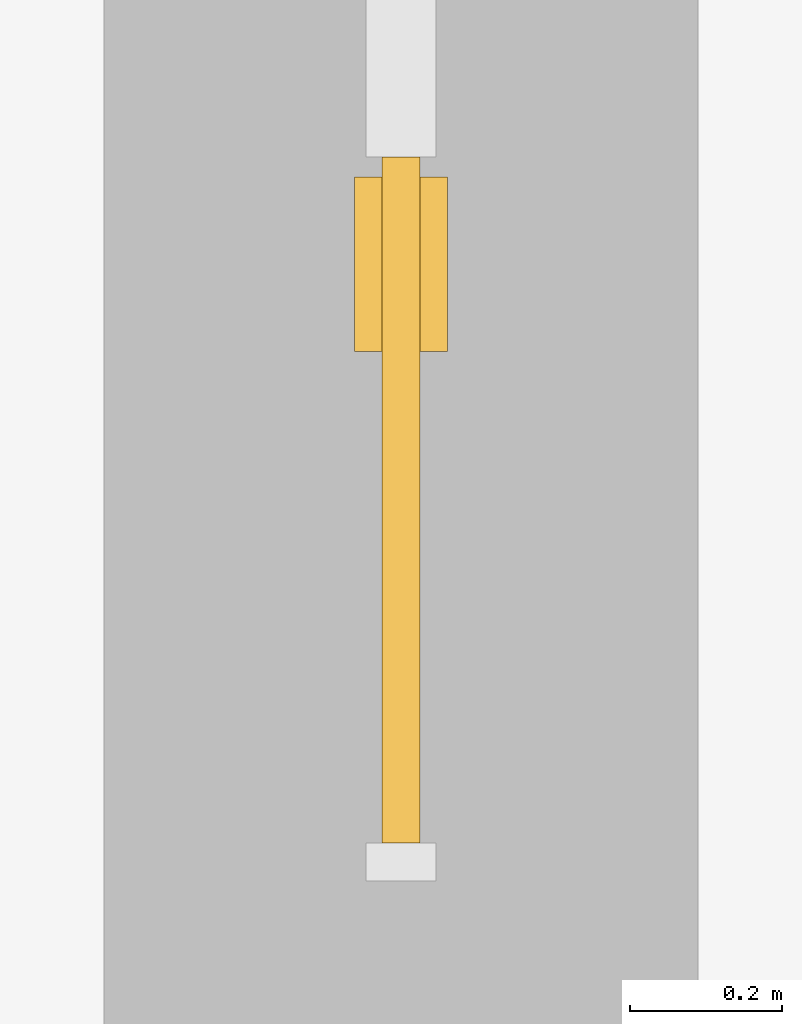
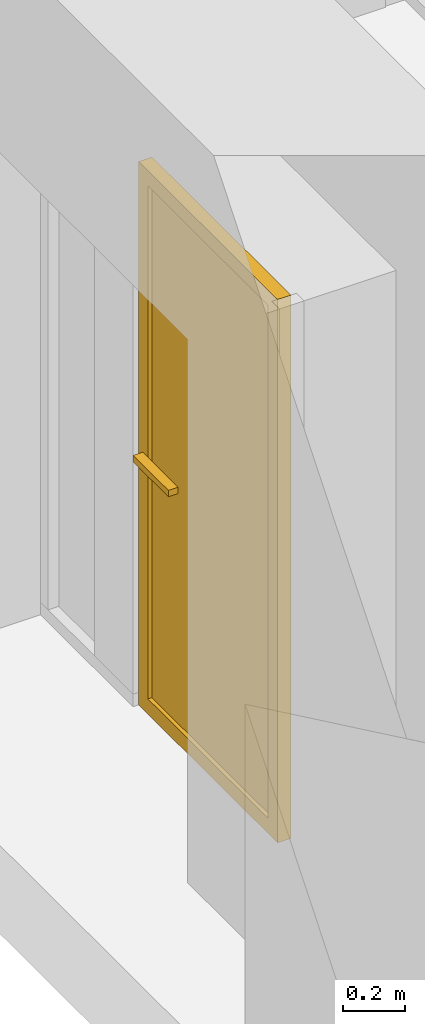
# One storey, part 82 of 88: 1 door, 1 element without a shape of its own.
"""IFC2X3 building model written with IfcOpenShell, lengths in millimetres."""

from ifc_helpers import new_model, entity, si_unit, converted_unit, derived_unit, direction, frame, frame_2d, origin, origin_2d_with_axis, place, context, subcontext, project, spatial, polyline, rectangle, outline, extrude, source, transform, mapped, material, material_list, type_object, type_shapes, element, aggregate, save


model = new_model("IFC2X3")

# Units and contexts
model_context = context("Model", 3, precision=0.01, world=origin(), true_north=direction((6.123031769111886e-17, 1.0)))
body_context = subcontext(model_context, "Body", "Model", "MODEL_VIEW")
ifc_project = project(units=[si_unit("LENGTHUNIT", "METRE", prefix="MILLI"), si_unit("AREAUNIT", "SQUARE_METRE"), si_unit("VOLUMEUNIT", "CUBIC_METRE"), converted_unit("PLANEANGLEUNIT", "DEGREE", entity("IfcPlaneAngleMeasure", 0.017453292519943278), si_unit("PLANEANGLEUNIT", "RADIAN"), dimensions=[0, 0, 0, 0, 0, 0, 0]), si_unit("MASSUNIT", "GRAM", prefix="KILO"), derived_unit("MASSDENSITYUNIT", [(si_unit("MASSUNIT", "GRAM", prefix="KILO"), 1), (si_unit("LENGTHUNIT", "METRE"), -3)]), derived_unit("IONCONCENTRATIONUNIT", [(si_unit("MASSUNIT", "GRAM", prefix="KILO"), 1), (si_unit("LENGTHUNIT", "METRE"), -3)]), derived_unit("MOMENTOFINERTIAUNIT", [(si_unit("LENGTHUNIT", "METRE"), 4)]), si_unit("TIMEUNIT", "SECOND"), si_unit("FREQUENCYUNIT", "HERTZ"), si_unit("THERMODYNAMICTEMPERATUREUNIT", "DEGREE_CELSIUS"), derived_unit("THERMALTRANSMITTANCEUNIT", [(si_unit("MASSUNIT", "GRAM", prefix="KILO"), 1), (si_unit("THERMODYNAMICTEMPERATUREUNIT", "KELVIN"), -1), (si_unit("TIMEUNIT", "SECOND"), -3)]), derived_unit("THERMALCONDUCTANCEUNIT", [(si_unit("MASSUNIT", "GRAM", prefix="KILO"), 1), (si_unit("THERMODYNAMICTEMPERATUREUNIT", "KELVIN"), -1), (si_unit("TIMEUNIT", "SECOND"), -3), (si_unit("LENGTHUNIT", "METRE"), 1)]), derived_unit("VOLUMETRICFLOWRATEUNIT", [(si_unit("LENGTHUNIT", "METRE", prefix="DECI"), 3), (si_unit("TIMEUNIT", "SECOND"), -1)]), derived_unit("MASSFLOWRATEUNIT", [(si_unit("MASSUNIT", "GRAM", prefix="KILO"), 1), (si_unit("TIMEUNIT", "SECOND"), -1)]), derived_unit("ROTATIONALFREQUENCYUNIT", [(si_unit("TIMEUNIT", "SECOND"), -1)]), si_unit("ELECTRICCURRENTUNIT", "AMPERE"), si_unit("ELECTRICVOLTAGEUNIT", "VOLT"), si_unit("POWERUNIT", "WATT"), si_unit("FORCEUNIT", "NEWTON", prefix="KILO"), si_unit("ILLUMINANCEUNIT", "LUX"), si_unit("LUMINOUSFLUXUNIT", "LUMEN"), si_unit("LUMINOUSINTENSITYUNIT", "CANDELA"), si_unit("ENERGYUNIT", "JOULE"), derived_unit("USERDEFINED", [(si_unit("MASSUNIT", "GRAM", prefix="KILO"), -1), (si_unit("LENGTHUNIT", "METRE"), -2), (si_unit("TIMEUNIT", "SECOND"), 3), (si_unit("LUMINOUSFLUXUNIT", "LUMEN"), 1)]), derived_unit("USERDEFINED", [(si_unit("MASSUNIT", "GRAM", prefix="KILO"), 1), (si_unit("TIMEUNIT", "SECOND"), -3), (si_unit("LENGTHUNIT", "METRE"), 3), (si_unit("ELECTRICCURRENTUNIT", "AMPERE"), -2)]), derived_unit("SOUNDPOWERUNIT", [(si_unit("MASSUNIT", "GRAM", prefix="KILO"), 1), (si_unit("TIMEUNIT", "SECOND"), -3), (si_unit("LENGTHUNIT", "METRE"), 2)]), derived_unit("SOUNDPRESSUREUNIT", [(si_unit("MASSUNIT", "GRAM", prefix="KILO"), 1), (si_unit("LENGTHUNIT", "METRE"), -1), (si_unit("TIMEUNIT", "SECOND"), -2)]), derived_unit("LINEARVELOCITYUNIT", [(si_unit("LENGTHUNIT", "METRE"), 1), (si_unit("TIMEUNIT", "SECOND"), -1)]), si_unit("PRESSUREUNIT", "PASCAL"), derived_unit("USERDEFINED", [(si_unit("MASSUNIT", "GRAM", prefix="KILO"), 1), (si_unit("LENGTHUNIT", "METRE"), -2), (si_unit("TIMEUNIT", "SECOND"), -2)]), derived_unit("LINEARFORCEUNIT", [(si_unit("MASSUNIT", "GRAM", prefix="KILO"), 1), (si_unit("TIMEUNIT", "SECOND"), -2)]), derived_unit("PLANARFORCEUNIT", [(si_unit("MASSUNIT", "GRAM", prefix="KILO"), 1), (si_unit("LENGTHUNIT", "METRE"), -1), (si_unit("TIMEUNIT", "SECOND"), -2)]), derived_unit("SPECIFICHEATCAPACITYUNIT", [(si_unit("THERMODYNAMICTEMPERATUREUNIT", "KELVIN"), -1), (si_unit("LENGTHUNIT", "METRE"), 2), (si_unit("TIMEUNIT", "SECOND"), -2)]), derived_unit("HEATFLUXDENSITYUNIT", [(si_unit("MASSUNIT", "GRAM", prefix="KILO"), 1), (si_unit("TIMEUNIT", "SECOND"), -3)]), derived_unit("HEATINGVALUEUNIT", [(si_unit("LENGTHUNIT", "METRE"), 2), (si_unit("TIMEUNIT", "SECOND"), -2)]), derived_unit("VAPORPERMEABILITYUNIT", [(si_unit("LENGTHUNIT", "METRE"), -1), (si_unit("TIMEUNIT", "SECOND"), 1)]), derived_unit("DYNAMICVISCOSITYUNIT", [(si_unit("MASSUNIT", "GRAM", prefix="KILO"), 1), (si_unit("TIMEUNIT", "SECOND"), -1), (si_unit("LENGTHUNIT", "METRE"), -1)]), derived_unit("THERMALEXPANSIONCOEFFICIENTUNIT", [(si_unit("THERMODYNAMICTEMPERATUREUNIT", "KELVIN"), -1)]), derived_unit("MODULUSOFELASTICITYUNIT", [(si_unit("MASSUNIT", "GRAM", prefix="KILO"), 1), (si_unit("LENGTHUNIT", "METRE"), -1), (si_unit("TIMEUNIT", "SECOND"), -2)]), derived_unit("ISOTHERMALMOISTURECAPACITYUNIT", [(si_unit("MASSUNIT", "GRAM", prefix="KILO"), -1), (si_unit("LENGTHUNIT", "METRE"), 3)]), derived_unit("MOISTUREDIFFUSIVITYUNIT", [(si_unit("TIMEUNIT", "SECOND"), -1), (si_unit("LENGTHUNIT", "METRE"), 2)]), derived_unit("MASSPERLENGTHUNIT", [(si_unit("MASSUNIT", "GRAM", prefix="KILO"), 1), (si_unit("LENGTHUNIT", "METRE"), -1)]), derived_unit("THERMALRESISTANCEUNIT", [(si_unit("MASSUNIT", "GRAM", prefix="KILO"), -1), (si_unit("TIMEUNIT", "SECOND"), 3), (si_unit("THERMODYNAMICTEMPERATUREUNIT", "KELVIN"), 1)]), derived_unit("ACCELERATIONUNIT", [(si_unit("LENGTHUNIT", "METRE"), 1), (si_unit("TIMEUNIT", "SECOND"), -2)]), derived_unit("ANGULARVELOCITYUNIT", [(si_unit("TIMEUNIT", "SECOND"), -1), (si_unit("PLANEANGLEUNIT", "RADIAN"), 1)]), derived_unit("LINEARSTIFFNESSUNIT", [(si_unit("MASSUNIT", "GRAM", prefix="KILO"), 1), (si_unit("TIMEUNIT", "SECOND"), -2)]), derived_unit("WARPINGCONSTANTUNIT", [(si_unit("LENGTHUNIT", "METRE"), 6)]), derived_unit("LINEARMOMENTUNIT", [(si_unit("MASSUNIT", "GRAM", prefix="KILO"), 1), (si_unit("LENGTHUNIT", "METRE"), 1), (si_unit("TIMEUNIT", "SECOND"), -2)]), derived_unit("TORQUEUNIT", [(si_unit("MASSUNIT", "GRAM", prefix="KILO"), 1), (si_unit("LENGTHUNIT", "METRE"), 2), (si_unit("TIMEUNIT", "SECOND"), -2)])], contexts=[model_context])

# Site, building, storey
site_placement = place(None, origin())
site = spatial("IfcSite", under=ifc_project, at=site_placement, Name="Default", CompositionType="ELEMENT")
building_placement = place(site_placement, origin())
building = spatial("IfcBuilding", under=site, at=building_placement, Name="Eesti Rahvusraamatukogu hoone renoveerimise projekteerimistööd", CompositionType="ELEMENT")
storey_placement = place(building_placement, origin())
storey = spatial("IfcBuildingStorey", under=building, at=storey_placement, Name="1. korrus", CompositionType="ELEMENT", Elevation=0.0)

# Curtain wall, door
curtain_wall_type = type_object("IfcCurtainWallType", Name="Curtain Wall:VLS Klaasvahesein profiilita 38db", PredefinedType="NOTDEFINED")
curtain_wall_placement = place(storey_placement, origin())
curtain_wall = element("IfcCurtainWall", 1, at=curtain_wall_placement, inside=storey, type_object=curtain_wall_type, Name="Curtain Wall:VLS Klaasvahesein profiilita 38db", ObjectType="Curtain Wall:VLS Klaasvahesein profiilita 38db")
ifc_material_1 = material(Name="Aluminum")
ifc_material_2 = material(Name="Glass")
ifc_material_3 = material(Name="<Unnamed>")
ifc_material_list = material_list([ifc_material_1, ifc_material_2, ifc_material_3])
door_style = type_object("IfcDoorStyle", Name="Metallprofiiluks klaasseinaosana:uus metallprofiiluks - 900x2300", ConstructionType="NOTDEFINED", OperationType="SINGLE_SWING_RIGHT", ParameterTakesPrecedence=False, Sizeable=False, material=ifc_material_list)
shared_shape = source(origin(), body_context, "Body", "SweptSolid", [
    extrude(rectangle(XDim=35.79999999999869, YDim=228.62310005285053, at=frame_2d((3.552713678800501e-15, 2.1316282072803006e-14), x_axis=(1.0, 0.0))), frame((-309.48844997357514, 42.90000000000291, 990.5999999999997), z_axis=(0.0, 0.0, 1.0), x_axis=(0.0, -1.0, 0.0)), (0.0, 0.0, 1.0), 25.399999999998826),
    extrude(rectangle(XDim=35.79999999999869, YDim=228.6000000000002, at=frame_2d((-1.7763568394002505e-15, 3.552713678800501e-14), x_axis=(1.0, 0.0))), frame((-309.49999999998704, -42.89999999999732, 990.5999999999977), z_axis=(0.0, 0.0, 1.0), x_axis=(0.0, 1.0, 0.0)), (0.0, 0.0, 1.0), 25.39999999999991),
    extrude(rectangle(XDim=899.999999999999, YDim=30.000000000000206, at=origin_2d_with_axis()), frame((0.0, 5.0, 0.0), z_axis=(0.0, 0.0, 1.0), x_axis=(-1.0, 0.0, 0.0)), (0.0, 0.0, 1.0), 2150.0),
    extrude(outline(polyline([(-450.0, -1075.0), (450.0, -1075.0), (450.0, 1075.0), (-450.0, 1075.0), (-450.0, -1075.0)]), holes=[polyline([(-390.0, -1015.0), (-390.0, 1015.0), (390.0, 1015.0), (390.0, -1015.0), (-390.0, -1015.0)])]), frame((0.0, -25.0, 1075.0), z_axis=(0.0, 1.0, 0.0), x_axis=(1.0, 0.0, 0.0)), (0.0, 0.0, 1.0), 49.9999999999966),
])
type_shapes(door_style, [shared_shape])
door_placement = place(curtain_wall_placement, frame((-48970.0, 15155.0, 0.0), z_axis=(0.0, 0.0, 1.0), x_axis=(0.0, -1.0, 0.0)))
door = element("IfcDoor", 2, at=door_placement, type_object=door_style, material=ifc_material_list, Name="Metallprofiiluks klaasseinaosana:uus metallprofiiluks - 900x2300", ObjectType="Metallprofiiluks klaasseinaosana:uus metallprofiiluks - 900x2300", OverallHeight=2150.0, OverallWidth=900.0000000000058, context=body_context, shape_type="MappedRepresentation", body=[
    mapped(shared_shape, transform((0.0, 0.0, 0.0), scale=1.0)),
])
aggregate(curtain_wall, [door])

save(model, "model.ifc")
